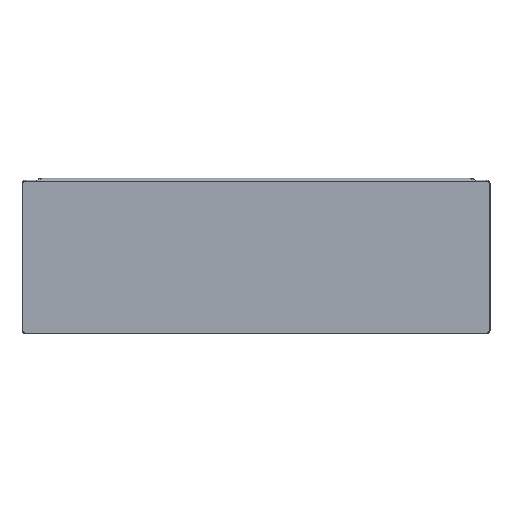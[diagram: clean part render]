
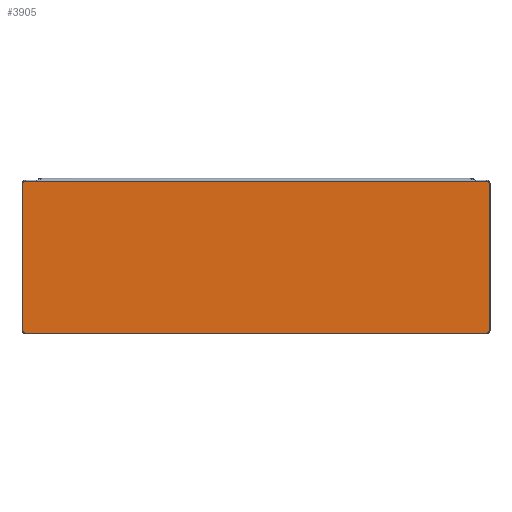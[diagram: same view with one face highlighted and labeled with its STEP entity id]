
A CAD part, top view. The second image highlights one B-rep face of the part: STEP entity #3905.
In plain terms, the highlighted planar face has unit normal (0, 0, 1).
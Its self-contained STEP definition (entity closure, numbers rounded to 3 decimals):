
#412=LINE('',#6114,#706);
#424=LINE('',#6165,#718);
#425=LINE('',#6167,#719);
#426=LINE('',#6171,#720);
#427=LINE('',#6175,#721);
#428=LINE('',#6176,#722);
#429=LINE('',#6178,#723);
#430=LINE('',#6180,#724);
#431=LINE('',#6184,#725);
#432=LINE('',#6188,#726);
#433=LINE('',#6190,#727);
#434=LINE('',#6193,#728);
#706=VECTOR('',#4878,1.);
#718=VECTOR('',#4930,1.);
#719=VECTOR('',#4931,10.);
#720=VECTOR('',#4934,1.);
#721=VECTOR('',#4937,10.);
#722=VECTOR('',#4938,1.);
#723=VECTOR('',#4939,1.);
#724=VECTOR('',#4940,10.);
#725=VECTOR('',#4943,1.);
#726=VECTOR('',#4946,10.);
#727=VECTOR('',#4947,1.);
#728=VECTOR('',#4950,1.);
#1003=FACE_OUTER_BOUND('',#1264,.T.);
#1264=EDGE_LOOP('',(#2763,#2764,#2765,#2766,#2767,#2768,#2769,#2770,#2771,
#2772,#2773,#2774,#2775,#2776,#2777,#2778,#2779,#2780,#2781,#2782));
#1602=CIRCLE('',#4370,1.5);
#1606=CIRCLE('',#4376,1.5);
#1607=CIRCLE('',#4378,1.5);
#1608=CIRCLE('',#4379,1.5);
#1609=CIRCLE('',#4380,1.5);
#1610=CIRCLE('',#4381,1.5);
#1611=CIRCLE('',#4382,1.5);
#1612=CIRCLE('',#4383,1.5);
#1798=VERTEX_POINT('',#6110);
#1799=VERTEX_POINT('',#6112);
#1813=VERTEX_POINT('',#6149);
#1815=VERTEX_POINT('',#6157);
#1816=VERTEX_POINT('',#6161);
#1817=VERTEX_POINT('',#6162);
#1818=VERTEX_POINT('',#6164);
#1819=VERTEX_POINT('',#6166);
#1820=VERTEX_POINT('',#6168);
#1821=VERTEX_POINT('',#6170);
#1822=VERTEX_POINT('',#6172);
#1823=VERTEX_POINT('',#6174);
#1824=VERTEX_POINT('',#6177);
#1825=VERTEX_POINT('',#6179);
#1826=VERTEX_POINT('',#6181);
#1827=VERTEX_POINT('',#6183);
#1828=VERTEX_POINT('',#6185);
#1829=VERTEX_POINT('',#6187);
#1830=VERTEX_POINT('',#6189);
#1831=VERTEX_POINT('',#6191);
#2169=EDGE_CURVE('',#1798,#1799,#412,.T.);
#2188=EDGE_CURVE('',#1799,#1813,#1602,.T.);
#2192=EDGE_CURVE('',#1815,#1798,#1606,.T.);
#2193=EDGE_CURVE('',#1816,#1817,#1607,.T.);
#2194=EDGE_CURVE('',#1817,#1818,#424,.T.);
#2195=EDGE_CURVE('',#1819,#1818,#425,.T.);
#2196=EDGE_CURVE('',#1820,#1819,#1608,.T.);
#2197=EDGE_CURVE('',#1820,#1821,#426,.T.);
#2198=EDGE_CURVE('',#1822,#1821,#1609,.T.);
#2199=EDGE_CURVE('',#1822,#1823,#427,.T.);
#2200=EDGE_CURVE('',#1823,#1815,#428,.T.);
#2201=EDGE_CURVE('',#1813,#1824,#429,.T.);
#2202=EDGE_CURVE('',#1825,#1824,#430,.T.);
#2203=EDGE_CURVE('',#1826,#1825,#1610,.T.);
#2204=EDGE_CURVE('',#1826,#1827,#431,.T.);
#2205=EDGE_CURVE('',#1828,#1827,#1611,.T.);
#2206=EDGE_CURVE('',#1828,#1829,#432,.T.);
#2207=EDGE_CURVE('',#1829,#1830,#433,.T.);
#2208=EDGE_CURVE('',#1830,#1831,#1612,.T.);
#2209=EDGE_CURVE('',#1831,#1816,#434,.T.);
#2763=ORIENTED_EDGE('',*,*,#2193,.T.);
#2764=ORIENTED_EDGE('',*,*,#2194,.T.);
#2765=ORIENTED_EDGE('',*,*,#2195,.F.);
#2766=ORIENTED_EDGE('',*,*,#2196,.F.);
#2767=ORIENTED_EDGE('',*,*,#2197,.T.);
#2768=ORIENTED_EDGE('',*,*,#2198,.F.);
#2769=ORIENTED_EDGE('',*,*,#2199,.T.);
#2770=ORIENTED_EDGE('',*,*,#2200,.T.);
#2771=ORIENTED_EDGE('',*,*,#2192,.T.);
#2772=ORIENTED_EDGE('',*,*,#2169,.T.);
#2773=ORIENTED_EDGE('',*,*,#2188,.T.);
#2774=ORIENTED_EDGE('',*,*,#2201,.T.);
#2775=ORIENTED_EDGE('',*,*,#2202,.F.);
#2776=ORIENTED_EDGE('',*,*,#2203,.F.);
#2777=ORIENTED_EDGE('',*,*,#2204,.T.);
#2778=ORIENTED_EDGE('',*,*,#2205,.F.);
#2779=ORIENTED_EDGE('',*,*,#2206,.T.);
#2780=ORIENTED_EDGE('',*,*,#2207,.T.);
#2781=ORIENTED_EDGE('',*,*,#2208,.T.);
#2782=ORIENTED_EDGE('',*,*,#2209,.T.);
#3778=PLANE('',#4377);
#3905=ADVANCED_FACE('',(#1003),#3778,.T.);
#4370=AXIS2_PLACEMENT_3D('',#6151,#4912,#4913);
#4376=AXIS2_PLACEMENT_3D('',#6159,#4924,#4925);
#4377=AXIS2_PLACEMENT_3D('',#6160,#4926,#4927);
#4378=AXIS2_PLACEMENT_3D('',#6163,#4928,#4929);
#4379=AXIS2_PLACEMENT_3D('',#6169,#4932,#4933);
#4380=AXIS2_PLACEMENT_3D('',#6173,#4935,#4936);
#4381=AXIS2_PLACEMENT_3D('',#6182,#4941,#4942);
#4382=AXIS2_PLACEMENT_3D('',#6186,#4944,#4945);
#4383=AXIS2_PLACEMENT_3D('',#6192,#4948,#4949);
#4878=DIRECTION('',(0.,1.,0.));
#4912=DIRECTION('center_axis',(0.,0.,1.));
#4913=DIRECTION('ref_axis',(1.,0.,0.));
#4924=DIRECTION('center_axis',(0.,0.,1.));
#4925=DIRECTION('ref_axis',(0.,-1.,0.));
#4926=DIRECTION('center_axis',(0.,0.,1.));
#4927=DIRECTION('ref_axis',(1.,0.,0.));
#4928=DIRECTION('center_axis',(0.,0.,1.));
#4929=DIRECTION('ref_axis',(-1.,0.,0.));
#4930=DIRECTION('',(1.,0.,0.));
#4931=DIRECTION('',(0.141,-0.99,0.));
#4932=DIRECTION('center_axis',(0.,0.,-1.));
#4933=DIRECTION('ref_axis',(0.,-1.,0.));
#4934=DIRECTION('',(1.,0.,0.));
#4935=DIRECTION('center_axis',(0.,0.,-1.));
#4936=DIRECTION('ref_axis',(0.048,-0.999,0.));
#4937=DIRECTION('',(-0.141,-0.99,0.));
#4938=DIRECTION('',(1.,0.,0.));
#4939=DIRECTION('',(-1.,0.,0.));
#4940=DIRECTION('',(-0.141,0.99,0.));
#4941=DIRECTION('center_axis',(0.,0.,-1.));
#4942=DIRECTION('ref_axis',(0.,1.,0.));
#4943=DIRECTION('',(-1.,0.,0.));
#4944=DIRECTION('center_axis',(0.,0.,-1.));
#4945=DIRECTION('ref_axis',(-0.048,0.999,0.));
#4946=DIRECTION('',(0.141,0.99,0.));
#4947=DIRECTION('',(-1.,0.,0.));
#4948=DIRECTION('center_axis',(0.,0.,1.));
#4949=DIRECTION('ref_axis',(0.,1.,0.));
#4950=DIRECTION('',(0.,-1.,0.));
#6110=CARTESIAN_POINT('',(152.,-48.,35.));
#6112=CARTESIAN_POINT('',(152.,48.,35.));
#6114=CARTESIAN_POINT('',(152.,-48.,35.));
#6149=CARTESIAN_POINT('',(150.5,49.5,35.));
#6151=CARTESIAN_POINT('Origin',(150.5,48.,35.));
#6157=CARTESIAN_POINT('',(150.5,-49.5,35.));
#6159=CARTESIAN_POINT('Origin',(150.5,-48.,35.));
#6160=CARTESIAN_POINT('Origin',(0.,0.,35.));
#6161=CARTESIAN_POINT('',(-152.,-48.,35.));
#6162=CARTESIAN_POINT('',(-150.5,-49.5,35.));
#6163=CARTESIAN_POINT('Origin',(-150.5,-48.,35.));
#6164=CARTESIAN_POINT('',(-143.071,-49.5,35.));
#6165=CARTESIAN_POINT('',(-150.5,-49.5,35.));
#6166=CARTESIAN_POINT('',(-143.072,-49.498,35.));
#6167=CARTESIAN_POINT('',(-143.072,-49.498,35.));
#6168=CARTESIAN_POINT('',(-143.,-49.5,35.));
#6169=CARTESIAN_POINT('Origin',(-143.,-48.,35.));
#6170=CARTESIAN_POINT('',(143.,-49.5,35.));
#6171=CARTESIAN_POINT('',(-143.,-49.5,35.));
#6172=CARTESIAN_POINT('',(143.072,-49.498,35.));
#6173=CARTESIAN_POINT('Origin',(143.,-48.,35.));
#6174=CARTESIAN_POINT('',(143.071,-49.5,35.));
#6175=CARTESIAN_POINT('',(143.072,-49.498,35.));
#6176=CARTESIAN_POINT('',(143.071,-49.5,35.));
#6177=CARTESIAN_POINT('',(143.071,49.5,35.));
#6178=CARTESIAN_POINT('',(150.5,49.5,35.));
#6179=CARTESIAN_POINT('',(143.072,49.498,35.));
#6180=CARTESIAN_POINT('',(143.072,49.498,35.));
#6181=CARTESIAN_POINT('',(143.,49.5,35.));
#6182=CARTESIAN_POINT('Origin',(143.,48.,35.));
#6183=CARTESIAN_POINT('',(-143.,49.5,35.));
#6184=CARTESIAN_POINT('',(143.,49.5,35.));
#6185=CARTESIAN_POINT('',(-143.072,49.498,35.));
#6186=CARTESIAN_POINT('Origin',(-143.,48.,35.));
#6187=CARTESIAN_POINT('',(-143.071,49.5,35.));
#6188=CARTESIAN_POINT('',(-143.072,49.498,35.));
#6189=CARTESIAN_POINT('',(-150.5,49.5,35.));
#6190=CARTESIAN_POINT('',(-143.071,49.5,35.));
#6191=CARTESIAN_POINT('',(-152.,48.,35.));
#6192=CARTESIAN_POINT('Origin',(-150.5,48.,35.));
#6193=CARTESIAN_POINT('',(-152.,48.,35.));
